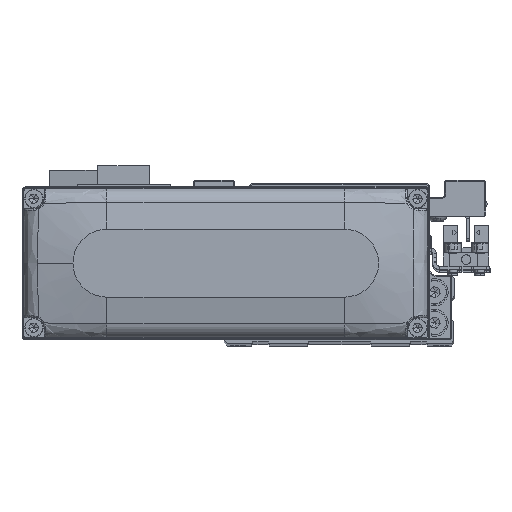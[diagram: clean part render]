
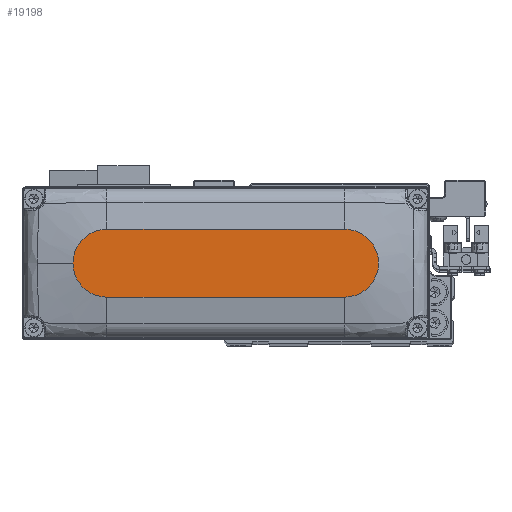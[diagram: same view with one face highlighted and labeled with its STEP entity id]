
A CAD part, top view. The second image highlights one B-rep face of the part: STEP entity #19198.
In plain terms, the highlighted planar face has unit normal (0, 0, 1).
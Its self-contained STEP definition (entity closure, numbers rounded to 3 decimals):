
#2240 = DIRECTION ( 'NONE',  ( 1., 0., 0. ) ) ;
#3267 = CARTESIAN_POINT ( 'NONE',  ( -35., -10., 28. ) ) ;
#4076 = VERTEX_POINT ( 'NONE', #31801 ) ;
#4570 = DIRECTION ( 'NONE',  ( 1., 0., 0. ) ) ;
#4621 = AXIS2_PLACEMENT_3D ( 'NONE', #34565, #7210, #19415 ) ;
#4766 = AXIS2_PLACEMENT_3D ( 'NONE', #8960, #21162, #33322 ) ;
#6148 = CARTESIAN_POINT ( 'NONE',  ( -35., 10., 28. ) ) ;
#7210 = DIRECTION ( 'NONE',  ( 0., 0., 1. ) ) ;
#8666 = VECTOR ( 'NONE', #35603, 1000. ) ;
#8960 = CARTESIAN_POINT ( 'NONE',  ( 0., 0., 28. ) ) ;
#10471 = EDGE_CURVE ( 'NONE', #24854, #20760, #11252, .T. ) ;
#11112 = CARTESIAN_POINT ( 'NONE',  ( 45., 0., 28. ) ) ;
#11252 = LINE ( 'NONE', #23451, #8666 ) ;
#12269 = AXIS2_PLACEMENT_3D ( 'NONE', #19762, #31935, #4570 ) ;
#13125 = AXIS2_PLACEMENT_3D ( 'NONE', #17400, #29591, #2240 ) ;
#14147 = ORIENTED_EDGE ( 'NONE', *, *, #28193, .T. ) ;
#14629 = VERTEX_POINT ( 'NONE', #11112 ) ;
#15419 = EDGE_CURVE ( 'NONE', #14629, #24854, #21850, .T. ) ;
#15454 = DIRECTION ( 'NONE',  ( 1., 0., 0. ) ) ;
#16109 = ORIENTED_EDGE ( 'NONE', *, *, #10471, .T. ) ;
#17226 = EDGE_CURVE ( 'NONE', #4076, #29921, #30629, .T. ) ;
#17257 = ORIENTED_EDGE ( 'NONE', *, *, #15419, .T. ) ;
#17400 = CARTESIAN_POINT ( 'NONE',  ( 35., 0., 28. ) ) ;
#18428 = CARTESIAN_POINT ( 'NONE',  ( 35., 10., 28. ) ) ;
#19198 = ADVANCED_FACE ( 'NONE', ( #24172 ), #36314, .T. ) ;
#19415 = DIRECTION ( 'NONE',  ( 1., 0., 0. ) ) ;
#19762 = CARTESIAN_POINT ( 'NONE',  ( -35., 0., 28. ) ) ;
#20760 = VERTEX_POINT ( 'NONE', #6148 ) ;
#21162 = DIRECTION ( 'NONE',  ( 0., 0., 1. ) ) ;
#21850 = CIRCLE ( 'NONE', #4621, 10. ) ;
#23451 = CARTESIAN_POINT ( 'NONE',  ( -35., 10., 28. ) ) ;
#23531 = EDGE_CURVE ( 'NONE', #20760, #4076, #24399, .T. ) ;
#23888 = VECTOR ( 'NONE', #15454, 1000. ) ;
#24138 = ORIENTED_EDGE ( 'NONE', *, *, #17226, .T. ) ;
#24172 = FACE_OUTER_BOUND ( 'NONE', #37636, .T. ) ;
#24399 = CIRCLE ( 'NONE', #12269, 10. ) ;
#24854 = VERTEX_POINT ( 'NONE', #18428 ) ;
#28193 = EDGE_CURVE ( 'NONE', #29921, #14629, #30355, .T. ) ;
#29591 = DIRECTION ( 'NONE',  ( 0., 0., 1. ) ) ;
#29921 = VERTEX_POINT ( 'NONE', #34327 ) ;
#30355 = CIRCLE ( 'NONE', #13125, 10. ) ;
#30629 = LINE ( 'NONE', #3267, #23888 ) ;
#31223 = ORIENTED_EDGE ( 'NONE', *, *, #23531, .T. ) ;
#31801 = CARTESIAN_POINT ( 'NONE',  ( -35., -10., 28. ) ) ;
#31935 = DIRECTION ( 'NONE',  ( 0., 0., 1. ) ) ;
#33322 = DIRECTION ( 'NONE',  ( 1., 0., 0. ) ) ;
#34327 = CARTESIAN_POINT ( 'NONE',  ( 35., -10., 28. ) ) ;
#34565 = CARTESIAN_POINT ( 'NONE',  ( 35., 0., 28. ) ) ;
#35603 = DIRECTION ( 'NONE',  ( -1., 0., 0. ) ) ;
#36314 = PLANE ( 'NONE',  #4766 ) ;
#37636 = EDGE_LOOP ( 'NONE', ( #16109, #31223, #24138, #14147, #17257 ) ) ;
